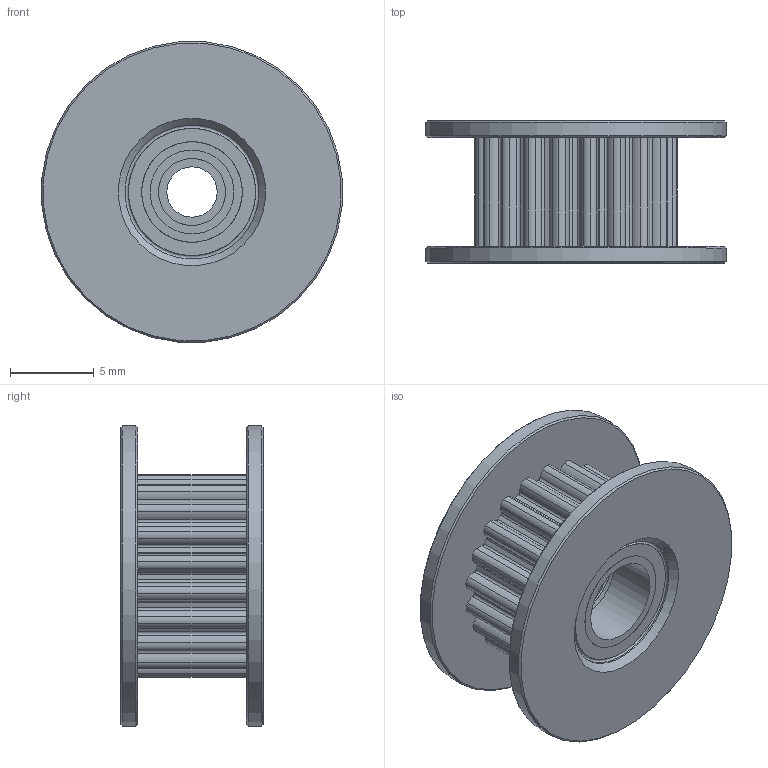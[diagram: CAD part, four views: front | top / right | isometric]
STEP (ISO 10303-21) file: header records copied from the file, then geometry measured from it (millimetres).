
FILE_DESCRIPTION(('FreeCAD Model'),'2;1');
FILE_NAME('Open CASCADE Shape Model','2021-05-05T09:11:19',('Author'),( ''),'Open CASCADE STEP processor 7.5','FreeCAD','Unknown');
FILE_SCHEMA(('AUTOMOTIVE_DESIGN { 1 0 10303 214 1 1 1 1 }'));
Length unit declared in the file: millimetre
Products named in the file (12): GT2 Timing Idler Pulley, Configurable_20T W6 B3 With T; Body, GT2 Timing Idler Pulley, Configurable_20T W6 B3 With T; Bearing Subassy, GT2 Timing Idler Pulley, Configurable_3 mm Bore; Bearing Outer Ring, GT2 Timing Idler Pulley, Configurable_3 mm Bore; Bearing Inner Ring, GT2 Timing Idler Pulley, Configurable_3 mm Bore; Bearing Seal, GT2 Timing Idler Pulley, Configurable_3 mm Bore; Bearing Ball, GT2 Timing Idler Pulley, Configurable_2 mm; Bearing Subassy, GT2 Timing Idler Pulley, Configurable_5 mm Bore; Bearing Outer Ring, GT2 Timing Idler Pulley, Configurable_5 mm Bore; Bearing Inner Ring, GT2 Timing Idler Pulley, Configurable_5 mm Bore; Bearing Seal, GT2 Timing Idler Pulley, Configurable_5 mm Bore; Bearing Ball, GT2 Timing Idler Pulley, Configurable_1.4 mm
Assembly tree (29 placements, depth 3):
  GT2 Timing Idler Pulley, Configurable_20T W6 B3 With T
    Body, GT2 Timing Idler Pulley, Configurable_20T W6 B3 With T
    Bearing Subassy, GT2 Timing Idler Pulley, Configurable_3 mm Bore
      Bearing Outer Ring, GT2 Timing Idler Pulley, Configurable_3 mm Bore
      Bearing Inner Ring, GT2 Timing Idler Pulley, Configurable_3 mm Bore
      Bearing Seal, GT2 Timing Idler Pulley, Configurable_3 mm Bore  x2
      Bearing Ball, GT2 Timing Idler Pulley, Configurable_2 mm  x6
    Bearing Subassy, GT2 Timing Idler Pulley, Configurable_5 mm Bore
      Bearing Outer Ring, GT2 Timing Idler Pulley, Configurable_5 mm Bore
      Bearing Inner Ring, GT2 Timing Idler Pulley, Configurable_5 mm Bore
      Bearing Seal, GT2 Timing Idler Pulley, Configurable_5 mm Bore  x2
      Bearing Ball, GT2 Timing Idler Pulley, Configurable_1.4 mm  x12
Bounding box: 17.93 x 8.5 x 17.93 mm (x, y, z)
Volume: 967.3 mm3; surface area: 2428.4 mm2
Topology: 27 solids, 27 shells, 223 faces, 592 edges, 391 vertices
Faces by surface type: cylinder 165, plane 22, sphere 18, torus 12, cone 6
Full cylindrical faces by diameter (mm): 3 x1, 4 x4, 5 x1, 6 x4, 7 x5, 8 x7, 9 x1, 18 x2
Entity records: 14097 total; most frequent: CARTESIAN_POINT 3075, DIRECTION 2166, ORIENTED_EDGE 1036, PCURVE 1036, DEFINITIONAL_REPRESENTATION 1036, LINE 858, VECTOR 858, AXIS2_PLACEMENT_3D 568
